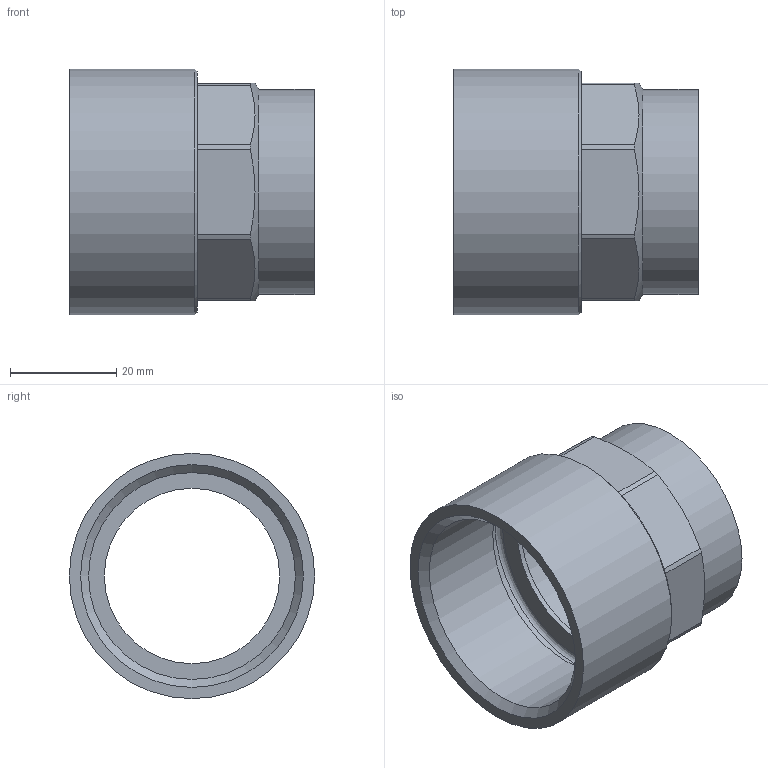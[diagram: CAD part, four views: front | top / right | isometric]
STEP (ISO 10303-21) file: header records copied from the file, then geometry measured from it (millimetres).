
FILE_DESCRIPTION((''),'2;1');
FILE_NAME('G:\Engineering\Public\RYSUNKI\SANHA POLSKA\4270G\STEP\14270_35-114(1).stp','2013-09-17T07:30:48',('haldrzynski'),(''),'Autodesk Inventor 2009','Autodesk Inventor 2009','');
FILE_SCHEMA(('AUTOMOTIVE_DESIGN { 1 0 10303 214 1 1 1 1 }'));
Length unit declared in the file: millimetre
Products named in the file (1): 14270_35-114(1)
Bounding box: 46 x 46.2 x 46.2 mm (x, y, z)
Volume: 18303.7 mm3; surface area: 13419.9 mm2
Topology: 1 solids, 1 shells, 32 faces, 82 edges, 55 vertices
Faces by surface type: cylinder 14, plane 13, cone 4, bspline 1
Full cylindrical faces by diameter (mm): 33 x1, 35 x1, 38.6 x1, 38.952 x1, 43 x1, 46.2 x1
Entity records: 984 total; most frequent: CARTESIAN_POINT 235, DIRECTION 150, ORIENTED_EDGE 142, EDGE_CURVE 71, AXIS2_PLACEMENT_3D 63, VERTEX_POINT 55, EDGE_LOOP 48, FACE_OUTER_BOUND 32
